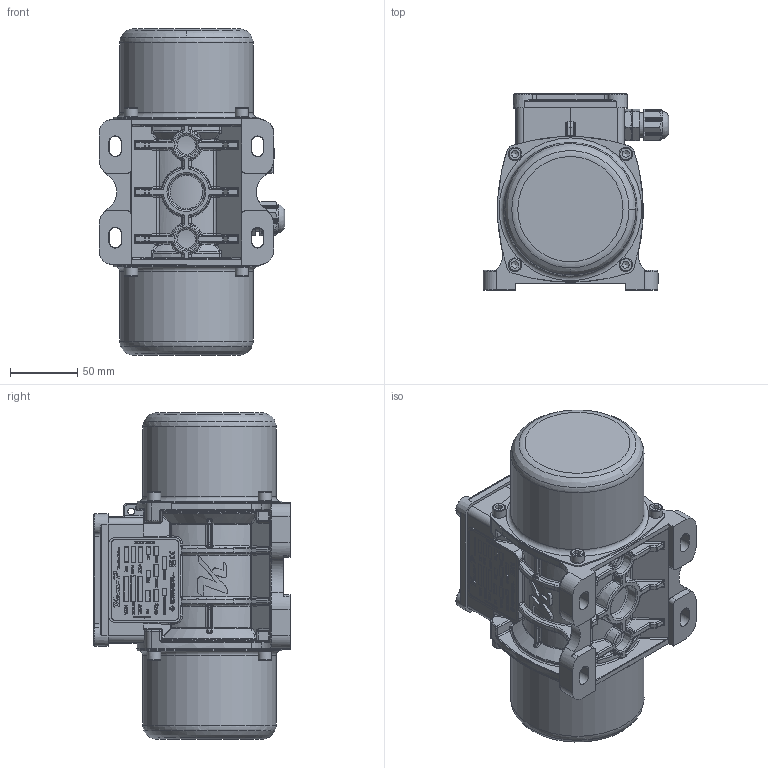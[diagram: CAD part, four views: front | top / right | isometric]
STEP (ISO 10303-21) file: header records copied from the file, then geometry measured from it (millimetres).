
FILE_DESCRIPTION(/* description */ (''),/* implementation_level */ '2;1');
FILE_NAME(/* name */ '1 NO MOTORLAR.stp',/* time_stamp */ '2026-08-28T15:56:41+03:00',/* author */ ('PC'),/* organization */ (''),/* preprocessor_version */ 'ST-DEVELOPER v20.1',/* originating_system */ 'Autodesk Inventor 2026',/* authorisation */ '');
FILE_SCHEMA (('AUTOMOTIVE_DESIGN { 1 0 10303 214 3 1 1 }'));
Products named in the file (1): 1 NO MOTORLAR
Bounding box: 138.3 x 146.02 x 243 mm (x, y, z)
Volume: 2193244.9 mm3; surface area: 172353.7 mm2
Topology: 5 solids, 45 shells, 4662 faces, 11952 edges, 7599 vertices
Faces by surface type: plane 2256, bspline 1597, cylinder 483, cone 152, torus 94, sphere 80
Full cylindrical faces by diameter (mm): 4.134 x3, 4.2 x1, 4.917 x8, 6 x8, 6.3 x1, 6.4 x8, 6.5 x8, 7.5 x1, 8.5 x4, 10 x8, 10.3 x1, 11 x1, 14 x1, 14.376 x1, 16 x1, 16.8 x1, 18.6 x2, 99.4 x2
Entity records: 202754 total; most frequent: CARTESIAN_POINT 94854, ORIENTED_EDGE 23744, DIRECTION 17037, EDGE_CURVE 11872, VERTEX_POINT 7598, LINE 6835, VECTOR 6835, AXIS2_PLACEMENT_3D 5101
